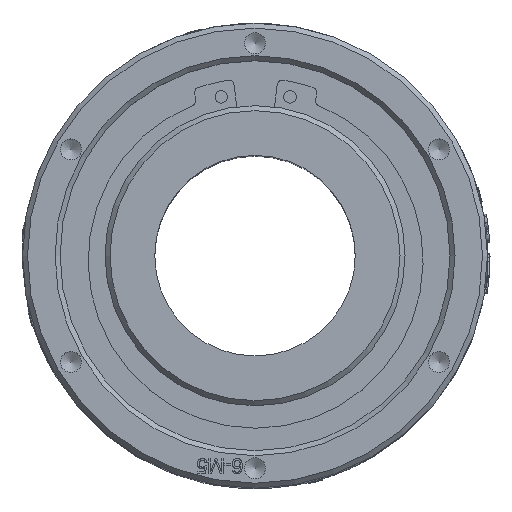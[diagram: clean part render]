
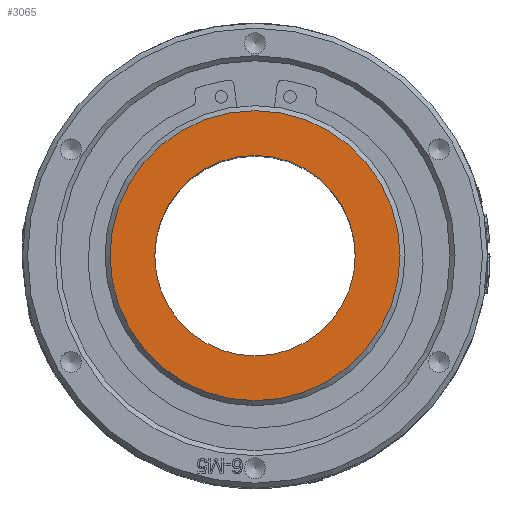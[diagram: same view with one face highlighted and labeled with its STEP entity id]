
A CAD part, top view. The second image highlights one B-rep face of the part: STEP entity #3065.
In plain terms, the highlighted planar face has unit normal (0, 0, 1).
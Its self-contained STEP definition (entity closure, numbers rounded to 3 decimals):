
#331=FACE_BOUND('',#7948,.T.);
#332=FACE_BOUND('',#7949,.T.);
#667=CIRCLE('',#27002,20.05);
#727=CIRCLE('',#27103,29.);
#1403=PLANE('',#27104);
#3065=ADVANCED_FACE('',(#331,#332),#1403,.T.);
#7948=EDGE_LOOP('',(#12931));
#7949=EDGE_LOOP('',(#12932));
#12931=ORIENTED_EDGE('',*,*,#21861,.T.);
#12932=ORIENTED_EDGE('',*,*,#21968,.T.);
#18235=VERTEX_POINT('',#50374);
#18329=VERTEX_POINT('',#50952);
#21861=EDGE_CURVE('',#18235,#18235,#667,.T.);
#21968=EDGE_CURVE('',#18329,#18329,#727,.T.);
#27002=AXIS2_PLACEMENT_3D('',#50373,#29688,#29689);
#27103=AXIS2_PLACEMENT_3D('',#50951,#29905,#29906);
#27104=AXIS2_PLACEMENT_3D('',#50953,#29907,#29908);
#29688=DIRECTION('',(0.,0.,-1.));
#29689=DIRECTION('',(1.,0.,0.));
#29905=DIRECTION('',(0.,0.,1.));
#29906=DIRECTION('',(1.,0.,0.));
#29907=DIRECTION('',(0.,0.,1.));
#29908=DIRECTION('',(1.,0.,0.));
#50373=CARTESIAN_POINT('',(0.,0.,90.));
#50374=CARTESIAN_POINT('',(20.05,0.,90.));
#50951=CARTESIAN_POINT('',(0.,0.,90.));
#50952=CARTESIAN_POINT('',(29.,0.,90.));
#50953=CARTESIAN_POINT('',(0.,0.,90.));
